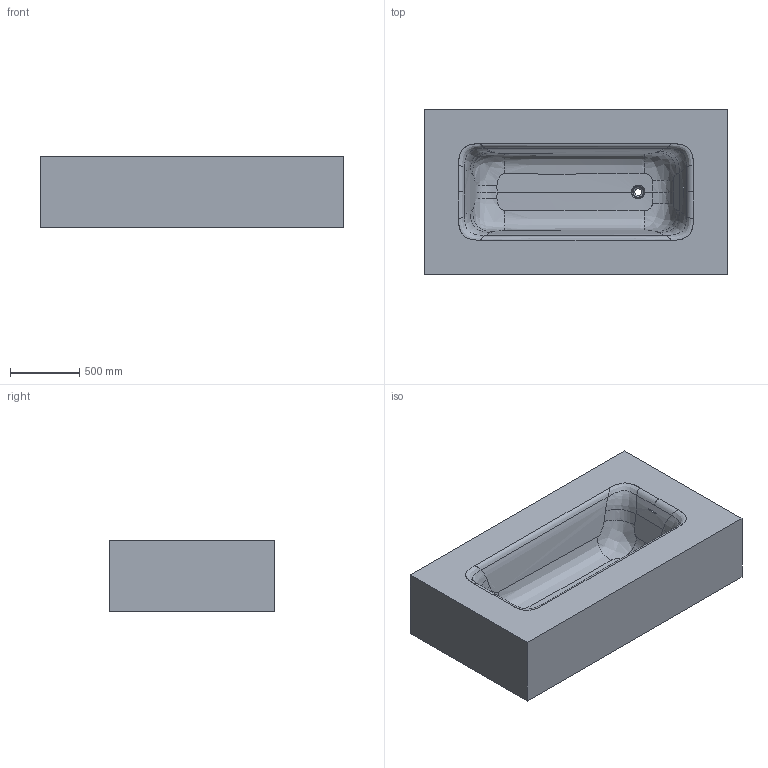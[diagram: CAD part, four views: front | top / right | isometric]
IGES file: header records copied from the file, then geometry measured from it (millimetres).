
Start section: Data from Parasolid IGES Translator 22.0.50, Copyright(c) 2006 Siemens P LM Software. All Rights Reserved.
Global section: file name: noorth-bathtub-H52 D75-120 W175-220_5670.igs; native system: By Siemens PLM Incorporated; preprocessor: XPlus GENERIC/IGES 22.0.50; author: Noname; organization: Noname; date: 20250706.162817; units: metre
Bounding box: 2200 x 1200 x 520.01 mm (x, y, z)
Volume: 122786148.1 mm3; surface area: 14905002.1 mm2
Topology: 2 solids, 2 shells, 494 faces, 1258 edges, 735 vertices
Faces by surface type: bspline 360, plane 70, cylinder 37, sphere 22, cone 4, torus 1
Full cylindrical faces by diameter (mm): 50 x1
